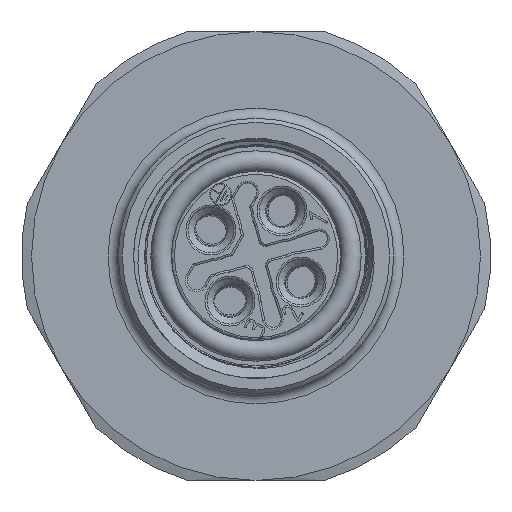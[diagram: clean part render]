
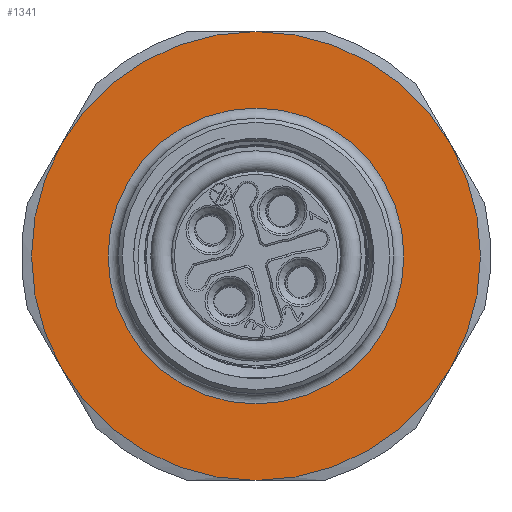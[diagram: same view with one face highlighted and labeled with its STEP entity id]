
A CAD part, left-side view. The second image highlights one B-rep face of the part: STEP entity #1341.
In plain terms, the highlighted planar face has unit normal (-1, 0, 0).
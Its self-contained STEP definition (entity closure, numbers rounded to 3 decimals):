
#732=FACE_BOUND('',#2490,.T.);
#733=FACE_BOUND('',#2491,.T.);
#1056=CIRCLE('',#8530,11.);
#1060=CIRCLE('',#8537,11.);
#1064=CIRCLE('',#8544,11.);
#1068=CIRCLE('',#8551,11.);
#1071=CIRCLE('',#8556,11.);
#1076=CIRCLE('',#8565,7.25);
#1077=CIRCLE('',#8566,11.);
#1341=ADVANCED_FACE('',(#732,#733),#1807,.F.);
#1807=PLANE('',#8567);
#2490=EDGE_LOOP('',(#3175));
#2491=EDGE_LOOP('',(#3176,#3177,#3178,#3179,#3180,#3181));
#3175=ORIENTED_EDGE('',*,*,#6216,.T.);
#3176=ORIENTED_EDGE('',*,*,#6217,.T.);
#3177=ORIENTED_EDGE('',*,*,#6170,.T.);
#3178=ORIENTED_EDGE('',*,*,#6180,.T.);
#3179=ORIENTED_EDGE('',*,*,#6190,.T.);
#3180=ORIENTED_EDGE('',*,*,#6200,.T.);
#3181=ORIENTED_EDGE('',*,*,#6207,.T.);
#5393=VERTEX_POINT('',#11544);
#5394=VERTEX_POINT('',#11549);
#5400=VERTEX_POINT('',#11580);
#5406=VERTEX_POINT('',#11611);
#5412=VERTEX_POINT('',#11642);
#5417=VERTEX_POINT('',#11662);
#5423=VERTEX_POINT('',#11688);
#6170=EDGE_CURVE('',#5393,#5394,#1056,.T.);
#6180=EDGE_CURVE('',#5394,#5400,#1060,.T.);
#6190=EDGE_CURVE('',#5400,#5406,#1064,.T.);
#6200=EDGE_CURVE('',#5406,#5412,#1068,.T.);
#6207=EDGE_CURVE('',#5412,#5417,#1071,.T.);
#6216=EDGE_CURVE('',#5423,#5423,#1076,.T.);
#6217=EDGE_CURVE('',#5417,#5393,#1077,.T.);
#8530=AXIS2_PLACEMENT_3D('',#11550,#9356,#9357);
#8537=AXIS2_PLACEMENT_3D('',#11581,#9372,#9373);
#8544=AXIS2_PLACEMENT_3D('',#11612,#9388,#9389);
#8551=AXIS2_PLACEMENT_3D('',#11643,#9404,#9405);
#8556=AXIS2_PLACEMENT_3D('',#11663,#9416,#9417);
#8565=AXIS2_PLACEMENT_3D('',#11687,#9436,#9437);
#8566=AXIS2_PLACEMENT_3D('',#11689,#9438,#9439);
#8567=AXIS2_PLACEMENT_3D('',#11690,#9440,#9441);
#9356=DIRECTION('',(-1.,0.,0.));
#9357=DIRECTION('',(0.,0.,-1.));
#9372=DIRECTION('',(-1.,0.,0.));
#9373=DIRECTION('',(0.,0.,-1.));
#9388=DIRECTION('',(-1.,0.,0.));
#9389=DIRECTION('',(0.,0.,-1.));
#9404=DIRECTION('',(-1.,0.,0.));
#9405=DIRECTION('',(0.,0.,-1.));
#9416=DIRECTION('',(-1.,0.,0.));
#9417=DIRECTION('',(0.,0.,-1.));
#9436=DIRECTION('',(1.,0.,0.));
#9437=DIRECTION('',(0.,0.,-1.));
#9438=DIRECTION('',(-1.,0.,0.));
#9439=DIRECTION('',(0.,0.,-1.));
#9440=DIRECTION('',(1.,0.,0.));
#9441=DIRECTION('',(0.,0.,-1.));
#11544=CARTESIAN_POINT('',(8.,9.526,5.5));
#11549=CARTESIAN_POINT('',(8.,9.526,-5.5));
#11550=CARTESIAN_POINT('',(8.,0.,0.));
#11580=CARTESIAN_POINT('',(8.,0.,-11.));
#11581=CARTESIAN_POINT('',(8.,0.,0.));
#11611=CARTESIAN_POINT('',(8.,-9.526,-5.5));
#11612=CARTESIAN_POINT('',(8.,0.,0.));
#11642=CARTESIAN_POINT('',(8.,-9.526,5.5));
#11643=CARTESIAN_POINT('',(8.,0.,0.));
#11662=CARTESIAN_POINT('',(8.,0.,11.));
#11663=CARTESIAN_POINT('',(8.,0.,0.));
#11687=CARTESIAN_POINT('',(8.,0.,0.));
#11688=CARTESIAN_POINT('',(8.,0.,-7.25));
#11689=CARTESIAN_POINT('',(8.,0.,0.));
#11690=CARTESIAN_POINT('',(8.,0.,0.));
